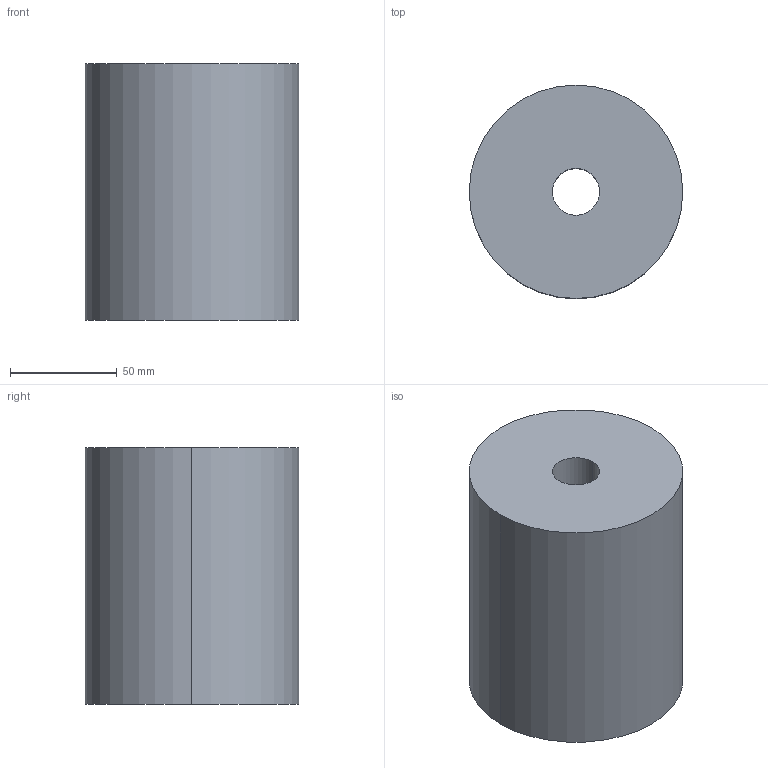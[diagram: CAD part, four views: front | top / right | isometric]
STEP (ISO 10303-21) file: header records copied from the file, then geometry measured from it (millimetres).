
FILE_DESCRIPTION(/* description */ (''),/* implementation_level */ '2;1');
FILE_NAME(/* name */ '3d_pa100-120_04904_r00.stp',/* time_stamp */ '2011-01-10T14:11:58+09:00',/* author */ ('MISUMI'),/* organization */ (''),/* preprocessor_version */ 'ST-DEVELOPER v11',/* originating_system */ 'UGS - NX 5.0',/* authorisation */ '');
FILE_SCHEMA (('CONFIG_CONTROL_DESIGN'));
Length unit declared in the file: millimetre
Products named in the file (1): 3d_pa100-120_04904_r00
Bounding box: 100 x 100 x 120 mm (x, y, z)
Volume: 896861.9 mm3; surface area: 60940.6 mm2
Topology: 1 solids, 1 shells, 6 faces, 12 edges, 8 vertices
Faces by surface type: cylinder 4, plane 2
Entity records: 254 total; most frequent: DIRECTION 34, CARTESIAN_POINT 27, ORIENTED_EDGE 24, AXIS2_PLACEMENT_3D 15, EDGE_CURVE 12, EDGE_LOOP 8, VERTEX_POINT 8, CIRCLE 8
